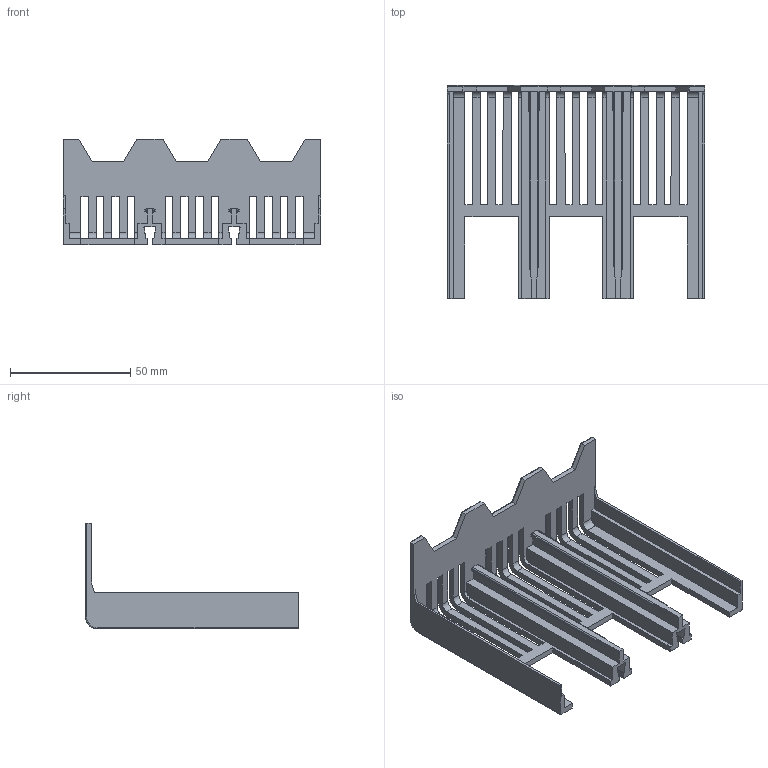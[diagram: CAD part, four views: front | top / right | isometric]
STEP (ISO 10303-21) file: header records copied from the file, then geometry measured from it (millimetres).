
FILE_DESCRIPTION((''),'2;1');
FILE_NAME('2503P','2023-10-24T09:18:44',('yangyuqing'),(''),'CREO PARAMETRIC BY PTC INC, 2020354','CREO PARAMETRIC BY PTC INC, 2020354','');
FILE_SCHEMA(('CONFIG_CONTROL_DESIGN'));
Length unit declared in the file: millimetre
Products named in the file (1): 2503P
Bounding box: 107 x 88.5 x 44 mm (x, y, z)
Volume: 34033.2 mm3; surface area: 34653 mm2
Topology: 1 solids, 1 shells, 241 faces, 759 edges, 496 vertices
Faces by surface type: plane 152, cylinder 75, torus 10, bspline 4
Entity records: 8667 total; most frequent: CARTESIAN_POINT 1902, ORIENTED_EDGE 1518, DIRECTION 1291, EDGE_CURVE 759, VECTOR 581, LINE 581, VERTEX_POINT 496, AXIS2_PLACEMENT_3D 355
